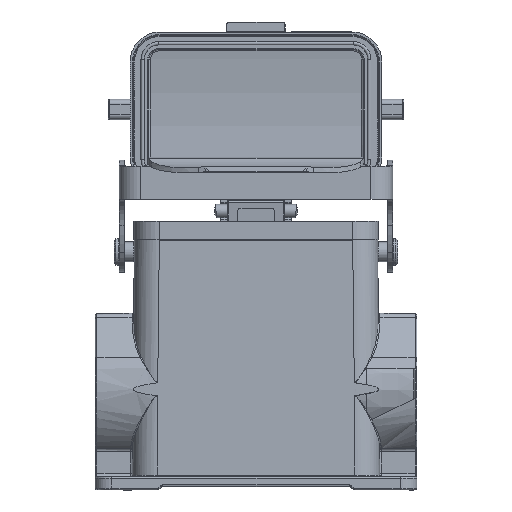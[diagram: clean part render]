
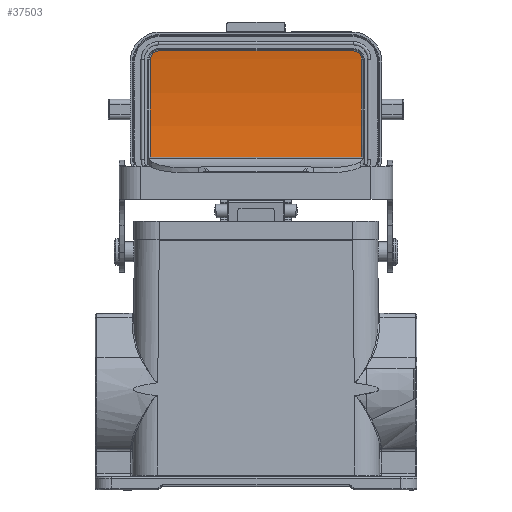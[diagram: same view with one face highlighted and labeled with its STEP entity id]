
A CAD part, front view. The second image highlights one B-rep face of the part: STEP entity #37503.
In plain terms, the highlighted cylindrical face has radius 123 mm (diameter 246 mm), a partial arc.
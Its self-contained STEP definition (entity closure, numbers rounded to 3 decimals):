
#245 = CARTESIAN_POINT ( 'NONE',  ( 31.336, 39.957, 45.027 ) ) ;
#742 = CARTESIAN_POINT ( 'NONE',  ( 29.15, 39.783, 43.779 ) ) ;
#905 = CARTESIAN_POINT ( 'NONE',  ( -30.69, 39.855, 78.417 ) ) ;
#1224 = CARTESIAN_POINT ( 'NONE',  ( -29.483, 39.783, 43.779 ) ) ;
#1526 = CARTESIAN_POINT ( 'NONE',  ( -29.804, 39.793, 43.843 ) ) ;
#3812 = EDGE_CURVE ( 'NONE', #10861, #47703, #71643, .T. ) ;
#4260 = ORIENTED_EDGE ( 'NONE', *, *, #73885, .T. ) ;
#7706 = DIRECTION ( 'NONE',  ( 0., 0., -1. ) ) ;
#7766 = CARTESIAN_POINT ( 'NONE',  ( -31.587, 40.038, 77.062 ) ) ;
#7777 = EDGE_CURVE ( 'NONE', #52573, #78833, #63790, .T. ) ;
#8521 = VERTEX_POINT ( 'NONE', #58367 ) ;
#10861 = VERTEX_POINT ( 'NONE', #13554 ) ;
#12097 = ORIENTED_EDGE ( 'NONE', *, *, #3812, .T. ) ;
#13554 = CARTESIAN_POINT ( 'NONE',  ( -31.65, 40.119, 46.289 ) ) ;
#14795 = VERTEX_POINT ( 'NONE', #75100 ) ;
#15233 = CARTESIAN_POINT ( 'NONE',  ( -29.805, 39.793, 78.857 ) ) ;
#15270 = CARTESIAN_POINT ( 'NONE',  ( -31.65, 40.078, 45.957 ) ) ;
#15441 = CARTESIAN_POINT ( 'NONE',  ( 31.336, 39.957, 77.674 ) ) ;
#16141 = CARTESIAN_POINT ( 'NONE',  ( 29.15, 39.783, 78.921 ) ) ;
#16762 = AXIS2_PLACEMENT_3D ( 'NONE', #62216, #42719, #7706 ) ;
#16905 = AXIS2_PLACEMENT_3D ( 'NONE', #76696, #35405, #35695 ) ;
#17210 = EDGE_CURVE ( 'NONE', #8521, #10861, #66683, .T. ) ;
#18198 = DIRECTION ( 'NONE',  ( 1., 0., 0. ) ) ;
#20002 = CARTESIAN_POINT ( 'NONE',  ( 31.65, 40.119, 46.289 ) ) ;
#20596 = CARTESIAN_POINT ( 'NONE',  ( 31.65, 40.078, 45.957 ) ) ;
#21160 = B_SPLINE_CURVE_WITH_KNOTS ( 'NONE', 3,
 ( #53539, #80410, #75325, #61049, #40653, #54131, #245, #81889, #20596, #20002 ),
 .UNSPECIFIED., .F., .F.,
 ( 4, 2, 2, 2, 4 ),
 ( 0., 0.25, 0.5, 0.75, 1. ),
 .UNSPECIFIED. ) ;
#21242 = CARTESIAN_POINT ( 'NONE',  ( -31.65, 40.078, 76.743 ) ) ;
#22953 = LINE ( 'NONE', #73938, #68983 ) ;
#28128 = CARTESIAN_POINT ( 'NONE',  ( -31.588, 40.038, 45.64 ) ) ;
#28580 = CARTESIAN_POINT ( 'NONE',  ( 31.65, 40.119, 76.411 ) ) ;
#29013 = CARTESIAN_POINT ( 'NONE',  ( -30.688, 39.855, 44.282 ) ) ;
#29526 = EDGE_CURVE ( 'NONE', #88171, #52573, #21160, .T. ) ;
#29768 = CARTESIAN_POINT ( 'NONE',  ( 30.419, 39.829, 78.6 ) ) ;
#29938 = LINE ( 'NONE', #59223, #69560 ) ;
#35278 = CARTESIAN_POINT ( 'NONE',  ( -29.484, 39.783, 78.921 ) ) ;
#35405 = DIRECTION ( 'NONE',  ( -1., 0., 0. ) ) ;
#35695 = DIRECTION ( 'NONE',  ( 0., 0., 1. ) ) ;
#36360 = CARTESIAN_POINT ( 'NONE',  ( 31.588, 40.038, 77.06 ) ) ;
#37503 = ADVANCED_FACE ( 'NONE', ( #75640 ), #79912, .F. ) ;
#38813 = ORIENTED_EDGE ( 'NONE', *, *, #58845, .T. ) ;
#40653 = CARTESIAN_POINT ( 'NONE',  ( 30.69, 39.855, 44.283 ) ) ;
#42719 = DIRECTION ( 'NONE',  ( 1., 0., 0. ) ) ;
#43285 = CARTESIAN_POINT ( 'NONE',  ( 31.157, 39.921, 77.944 ) ) ;
#45850 = CARTESIAN_POINT ( 'NONE',  ( 31.65, 40.119, 76.411 ) ) ;
#46793 = AXIS2_PLACEMENT_3D ( 'NONE', #54906, #61520, #68934 ) ;
#47600 = EDGE_CURVE ( 'NONE', #14795, #8521, #79694, .T. ) ;
#47703 = VERTEX_POINT ( 'NONE', #62280 ) ;
#48485 = CARTESIAN_POINT ( 'NONE',  ( -31.156, 39.92, 77.945 ) ) ;
#48722 = ORIENTED_EDGE ( 'NONE', *, *, #29526, .T. ) ;
#48779 = CARTESIAN_POINT ( 'NONE',  ( -29.15, 39.783, 78.921 ) ) ;
#52573 = VERTEX_POINT ( 'NONE', #78750 ) ;
#53539 = CARTESIAN_POINT ( 'NONE',  ( 29.15, 39.783, 43.779 ) ) ;
#54131 = CARTESIAN_POINT ( 'NONE',  ( 31.156, 39.92, 44.755 ) ) ;
#54906 = CARTESIAN_POINT ( 'NONE',  ( 32.15, -81.955, 61.35 ) ) ;
#55140 = CARTESIAN_POINT ( 'NONE',  ( -31.65, 40.119, 46.289 ) ) ;
#55390 = CARTESIAN_POINT ( 'NONE',  ( -31.336, 39.957, 77.673 ) ) ;
#56014 = CARTESIAN_POINT ( 'NONE',  ( -29.15, 39.783, 43.779 ) ) ;
#56181 = CARTESIAN_POINT ( 'NONE',  ( 29.15, 39.783, 78.921 ) ) ;
#56315 = CARTESIAN_POINT ( 'NONE',  ( -31.157, 39.921, 44.756 ) ) ;
#56631 = ORIENTED_EDGE ( 'NONE', *, *, #61726, .T. ) ;
#58367 = CARTESIAN_POINT ( 'NONE',  ( -31.65, 40.119, 76.411 ) ) ;
#58372 = ORIENTED_EDGE ( 'NONE', *, *, #17210, .T. ) ;
#58767 = ORIENTED_EDGE ( 'NONE', *, *, #7777, .T. ) ;
#58845 = EDGE_CURVE ( 'NONE', #47703, #88171, #29938, .T. ) ;
#59223 = CARTESIAN_POINT ( 'NONE',  ( -29.314, 39.783, 43.779 ) ) ;
#59335 = DIRECTION ( 'NONE',  ( -1., 0., 0. ) ) ;
#61049 = CARTESIAN_POINT ( 'NONE',  ( 30.418, 39.829, 44.1 ) ) ;
#61520 = DIRECTION ( 'NONE',  ( 1., 0., 0. ) ) ;
#61608 = CARTESIAN_POINT ( 'NONE',  ( 31.65, 40.078, 76.743 ) ) ;
#61726 = EDGE_CURVE ( 'NONE', #78833, #74716, #85679, .T. ) ;
#61995 = CARTESIAN_POINT ( 'NONE',  ( -30.418, 39.829, 78.6 ) ) ;
#62216 = CARTESIAN_POINT ( 'NONE',  ( 31.65, -81.955, 61.35 ) ) ;
#62280 = CARTESIAN_POINT ( 'NONE',  ( -29.15, 39.783, 43.779 ) ) ;
#63790 = CIRCLE ( 'NONE', #16762, 123. ) ;
#66683 = CIRCLE ( 'NONE', #16905, 123. ) ;
#68934 = DIRECTION ( 'NONE',  ( 0., 0., -1. ) ) ;
#68983 = VECTOR ( 'NONE', #59335, 1000. ) ;
#69560 = VECTOR ( 'NONE', #18198, 1000. ) ;
#70032 = CARTESIAN_POINT ( 'NONE',  ( -31.336, 39.957, 45.026 ) ) ;
#70501 = CARTESIAN_POINT ( 'NONE',  ( 29.804, 39.793, 78.857 ) ) ;
#71643 = B_SPLINE_CURVE_WITH_KNOTS ( 'NONE', 3,
 ( #55140, #15270, #28128, #70032, #56315, #29013, #82289, #1526, #1224, #56014 ),
 .UNSPECIFIED., .F., .F.,
 ( 4, 2, 2, 2, 4 ),
 ( 0., 0.25, 0.5, 0.75, 1. ),
 .UNSPECIFIED. ) ;
#73885 = EDGE_CURVE ( 'NONE', #74716, #14795, #22953, .T. ) ;
#73938 = CARTESIAN_POINT ( 'NONE',  ( 29.32, 39.783, 78.921 ) ) ;
#74716 = VERTEX_POINT ( 'NONE', #16141 ) ;
#75100 = CARTESIAN_POINT ( 'NONE',  ( -29.15, 39.783, 78.921 ) ) ;
#75325 = CARTESIAN_POINT ( 'NONE',  ( 29.805, 39.793, 43.843 ) ) ;
#75640 = FACE_OUTER_BOUND ( 'NONE', #77303, .T. ) ;
#75980 = CARTESIAN_POINT ( 'NONE',  ( -31.65, 40.119, 76.411 ) ) ;
#76696 = CARTESIAN_POINT ( 'NONE',  ( -31.65, -81.955, 61.35 ) ) ;
#77303 = EDGE_LOOP ( 'NONE', ( #38813, #48722, #58767, #56631, #4260, #77728, #58372, #12097 ) ) ;
#77728 = ORIENTED_EDGE ( 'NONE', *, *, #47600, .T. ) ;
#78750 = CARTESIAN_POINT ( 'NONE',  ( 31.65, 40.119, 46.289 ) ) ;
#78833 = VERTEX_POINT ( 'NONE', #45850 ) ;
#79694 = B_SPLINE_CURVE_WITH_KNOTS ( 'NONE', 3,
 ( #48779, #35278, #15233, #61995, #905, #48485, #55390, #7766, #21242, #75980 ),
 .UNSPECIFIED., .F., .F.,
 ( 4, 2, 2, 2, 4 ),
 ( 0., 0.25, 0.5, 0.75, 1. ),
 .UNSPECIFIED. ) ;
#79912 = CYLINDRICAL_SURFACE ( 'NONE', #46793, 123. ) ;
#80410 = CARTESIAN_POINT ( 'NONE',  ( 29.484, 39.783, 43.779 ) ) ;
#81889 = CARTESIAN_POINT ( 'NONE',  ( 31.587, 40.038, 45.638 ) ) ;
#82289 = CARTESIAN_POINT ( 'NONE',  ( -30.419, 39.829, 44.1 ) ) ;
#83926 = CARTESIAN_POINT ( 'NONE',  ( 29.483, 39.783, 78.921 ) ) ;
#84222 = CARTESIAN_POINT ( 'NONE',  ( 30.688, 39.855, 78.418 ) ) ;
#85679 = B_SPLINE_CURVE_WITH_KNOTS ( 'NONE', 3,
 ( #28580, #61608, #36360, #15441, #43285, #84222, #29768, #70501, #83926, #56181 ),
 .UNSPECIFIED., .F., .F.,
 ( 4, 2, 2, 2, 4 ),
 ( 0., 0.25, 0.5, 0.75, 1. ),
 .UNSPECIFIED. ) ;
#88171 = VERTEX_POINT ( 'NONE', #742 ) ;
